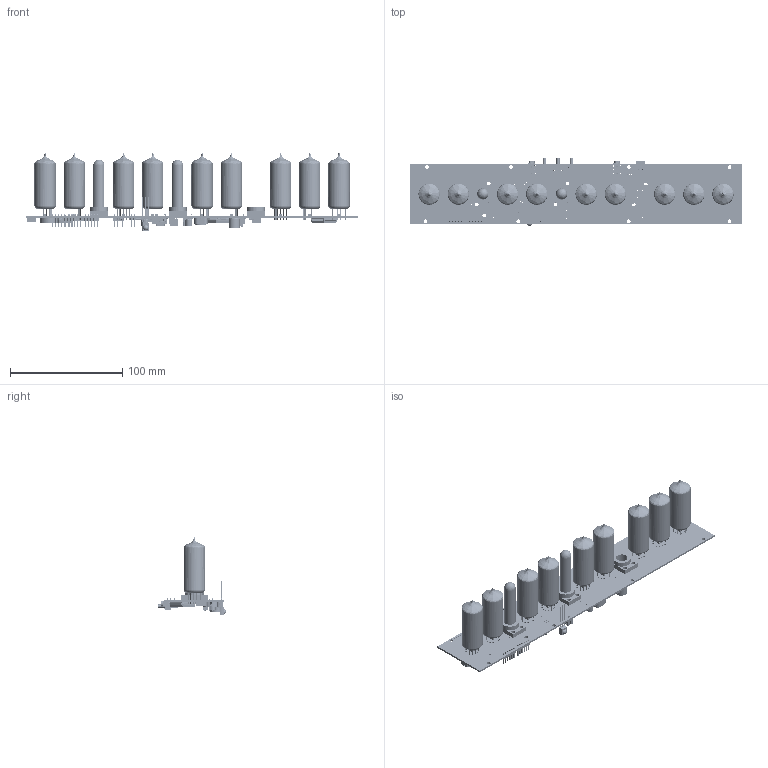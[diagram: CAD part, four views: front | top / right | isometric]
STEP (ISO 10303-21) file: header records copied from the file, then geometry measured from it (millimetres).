
FILE_DESCRIPTION(('Open CASCADE Model'),'2;1');
FILE_NAME('Open CASCADE Shape Model','2020-09-28T23:18:26',('Author'),( 'Open CASCADE'),'Open CASCADE STEP processor 6.8','Open CASCADE 6.8' ,'Unknown');
FILE_SCHEMA(('AUTOMOTIVE_DESIGN { 1 0 10303 214 1 1 1 1 }'));
Length unit declared in the file: millimetre
Products named in the file (1): PCB
Bounding box: 296 x 60.6 x 69.2 mm (x, y, z)
Volume: 36280 mm3; surface area: 89519.4 mm2
Topology: 83 solids, 5925 shells, 13952 faces, 51944 edges, 43019 vertices
Faces by surface type: plane 8097, cylinder 4242, bspline 922, sphere 606, cone 45, torus 40
Full cylindrical faces by diameter (mm): 0.8 x14, 0.9 x71, 1.1 x7, 1.3 x18, 1.4 x114, 1.5 x4, 3.3 x15
Entity records: 626948 total; most frequent: CARTESIAN_POINT 157108, DIRECTION 84899, ORIENTED_EDGE 70623, EDGE_CURVE 51186, VERTEX_POINT 43019, LINE 36409, VECTOR 36409, AXIS2_PLACEMENT_3D 24245
